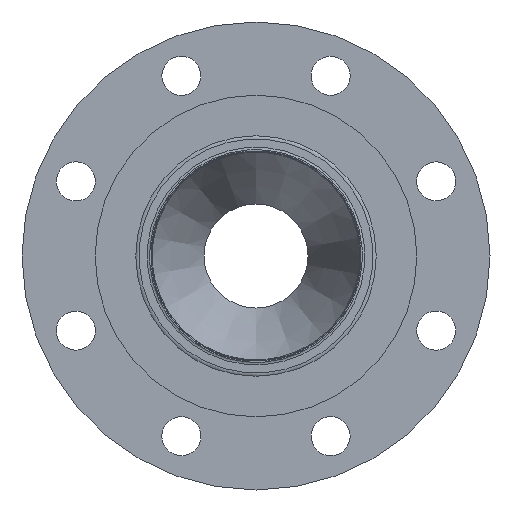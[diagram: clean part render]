
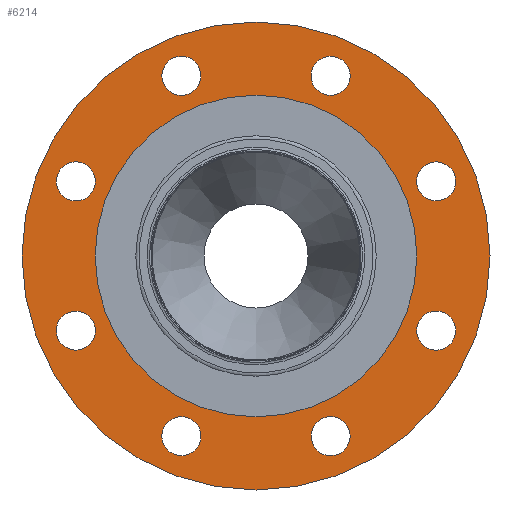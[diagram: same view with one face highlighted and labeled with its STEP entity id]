
A CAD part, front view. The second image highlights one B-rep face of the part: STEP entity #6214.
In plain terms, the highlighted planar face has unit normal (0, -1, 0) as drawn and (0, 1, 0) by its records, which use the part's own axes.
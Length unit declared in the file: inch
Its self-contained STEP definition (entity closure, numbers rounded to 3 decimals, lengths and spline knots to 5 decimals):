
#5875=CARTESIAN_POINT('',(-1.1699,0.5625,3.72971));
#5876=VERTEX_POINT('',#5875);
#5877=CARTESIAN_POINT('',(-1.43506,0.5625,3.46455));
#5878=DIRECTION('',(0.0,-1.0,0.0));
#5879=DIRECTION('',(0.707,0.0,0.707));
#5880=AXIS2_PLACEMENT_3D('',#5877,#5878,#5879);
#5881=CIRCLE('',#5880,0.375);
#5882=EDGE_CURVE('',#5876,#5876,#5881,.T.);
#5903=CARTESIAN_POINT('',(-3.46455,0.5625,1.81006));
#5904=VERTEX_POINT('',#5903);
#5905=CARTESIAN_POINT('',(-3.46455,0.5625,1.43506));
#5906=DIRECTION('',(0.0,-1.0,0.0));
#5907=DIRECTION('',(0.0,0.0,1.0));
#5908=AXIS2_PLACEMENT_3D('',#5905,#5906,#5907);
#5909=CIRCLE('',#5908,0.375);
#5910=EDGE_CURVE('',#5904,#5904,#5909,.T.);
#5931=CARTESIAN_POINT('',(-3.72971,0.5625,-1.1699));
#5932=VERTEX_POINT('',#5931);
#5933=CARTESIAN_POINT('',(-3.46455,0.5625,-1.43506));
#5934=DIRECTION('',(0.0,-1.0,0.0));
#5935=DIRECTION('',(-0.707,0.0,0.707));
#5936=AXIS2_PLACEMENT_3D('',#5933,#5934,#5935);
#5937=CIRCLE('',#5936,0.375);
#5938=EDGE_CURVE('',#5932,#5932,#5937,.T.);
#5959=CARTESIAN_POINT('',(-1.81006,0.5625,-3.46455));
#5960=VERTEX_POINT('',#5959);
#5961=CARTESIAN_POINT('',(-1.43506,0.5625,-3.46455));
#5962=DIRECTION('',(0.0,-1.0,0.0));
#5963=DIRECTION('',(-1.0,0.0,0.0));
#5964=AXIS2_PLACEMENT_3D('',#5961,#5962,#5963);
#5965=CIRCLE('',#5964,0.375);
#5966=EDGE_CURVE('',#5960,#5960,#5965,.T.);
#5987=CARTESIAN_POINT('',(1.1699,0.5625,-3.72971));
#5988=VERTEX_POINT('',#5987);
#5989=CARTESIAN_POINT('',(1.43506,0.5625,-3.46455));
#5990=DIRECTION('',(0.0,-1.0,0.0));
#5991=DIRECTION('',(-0.707,0.0,-0.707));
#5992=AXIS2_PLACEMENT_3D('',#5989,#5990,#5991);
#5993=CIRCLE('',#5992,0.375);
#5994=EDGE_CURVE('',#5988,#5988,#5993,.T.);
#6015=CARTESIAN_POINT('',(3.46455,0.5625,-1.81006));
#6016=VERTEX_POINT('',#6015);
#6017=CARTESIAN_POINT('',(3.46455,0.5625,-1.43506));
#6018=DIRECTION('',(0.0,-1.0,0.0));
#6019=DIRECTION('',(0.0,0.0,-1.0));
#6020=AXIS2_PLACEMENT_3D('',#6017,#6018,#6019);
#6021=CIRCLE('',#6020,0.375);
#6022=EDGE_CURVE('',#6016,#6016,#6021,.T.);
#6043=CARTESIAN_POINT('',(3.72971,0.5625,1.1699));
#6044=VERTEX_POINT('',#6043);
#6045=CARTESIAN_POINT('',(3.46455,0.5625,1.43506));
#6046=DIRECTION('',(0.0,-1.0,0.0));
#6047=DIRECTION('',(0.707,0.0,-0.707));
#6048=AXIS2_PLACEMENT_3D('',#6045,#6046,#6047);
#6049=CIRCLE('',#6048,0.375);
#6050=EDGE_CURVE('',#6044,#6044,#6049,.T.);
#6071=CARTESIAN_POINT('',(1.81006,0.5625,3.46455));
#6072=VERTEX_POINT('',#6071);
#6073=CARTESIAN_POINT('',(1.43506,0.5625,3.46455));
#6074=DIRECTION('',(0.0,-1.0,0.0));
#6075=DIRECTION('',(1.0,0.0,0.0));
#6076=AXIS2_PLACEMENT_3D('',#6073,#6074,#6075);
#6077=CIRCLE('',#6076,0.375);
#6078=EDGE_CURVE('',#6072,#6072,#6077,.T.);
#6099=CARTESIAN_POINT('',(3.09375,0.5625,0.));
#6100=VERTEX_POINT('',#6099);
#6101=CARTESIAN_POINT('',(0.0,0.5625,0.0));
#6102=DIRECTION('',(0.0,-1.0,0.0));
#6103=DIRECTION('',(-1.0,0.0,0.0));
#6104=AXIS2_PLACEMENT_3D('',#6101,#6102,#6103);
#6105=CIRCLE('',#6104,3.09375);
#6106=EDGE_CURVE('',#6100,#6100,#6105,.T.);
#6156=CARTESIAN_POINT('',(-4.5,0.5625,0.));
#6157=VERTEX_POINT('',#6156);
#6158=CARTESIAN_POINT('',(0.0,0.5625,0.0));
#6159=DIRECTION('',(0.0,-1.0,0.0));
#6160=DIRECTION('',(1.0,0.0,0.0));
#6161=AXIS2_PLACEMENT_3D('',#6158,#6159,#6160);
#6162=CIRCLE('',#6161,4.5);
#6163=EDGE_CURVE('',#6157,#6157,#6162,.T.);
#6179=CARTESIAN_POINT('',(0.0,0.5625,0.0));
#6180=DIRECTION('',(0.0,-1.0,0.0));
#6181=DIRECTION('',(0.0,0.0,-1.0));
#6182=AXIS2_PLACEMENT_3D('',#6179,#6180,#6181);
#6183=PLANE('',#6182);
#6184=ORIENTED_EDGE('',*,*,#6163,.F.);
#6185=EDGE_LOOP('',(#6184));
#6186=FACE_OUTER_BOUND('',#6185,.T.);
#6187=ORIENTED_EDGE('',*,*,#5882,.T.);
#6188=EDGE_LOOP('',(#6187));
#6189=FACE_BOUND('',#6188,.T.);
#6190=ORIENTED_EDGE('',*,*,#5910,.T.);
#6191=EDGE_LOOP('',(#6190));
#6192=FACE_BOUND('',#6191,.T.);
#6193=ORIENTED_EDGE('',*,*,#5938,.T.);
#6194=EDGE_LOOP('',(#6193));
#6195=FACE_BOUND('',#6194,.T.);
#6196=ORIENTED_EDGE('',*,*,#5966,.T.);
#6197=EDGE_LOOP('',(#6196));
#6198=FACE_BOUND('',#6197,.T.);
#6199=ORIENTED_EDGE('',*,*,#5994,.T.);
#6200=EDGE_LOOP('',(#6199));
#6201=FACE_BOUND('',#6200,.T.);
#6202=ORIENTED_EDGE('',*,*,#6022,.T.);
#6203=EDGE_LOOP('',(#6202));
#6204=FACE_BOUND('',#6203,.T.);
#6205=ORIENTED_EDGE('',*,*,#6050,.T.);
#6206=EDGE_LOOP('',(#6205));
#6207=FACE_BOUND('',#6206,.T.);
#6208=ORIENTED_EDGE('',*,*,#6078,.T.);
#6209=EDGE_LOOP('',(#6208));
#6210=FACE_BOUND('',#6209,.T.);
#6211=ORIENTED_EDGE('',*,*,#6106,.T.);
#6212=EDGE_LOOP('',(#6211));
#6213=FACE_BOUND('',#6212,.T.);
#6214=ADVANCED_FACE('',(#6186,#6189,#6192,#6195,#6198,#6201,#6204,#6207,#6210,#6213),#6183,.F.);
